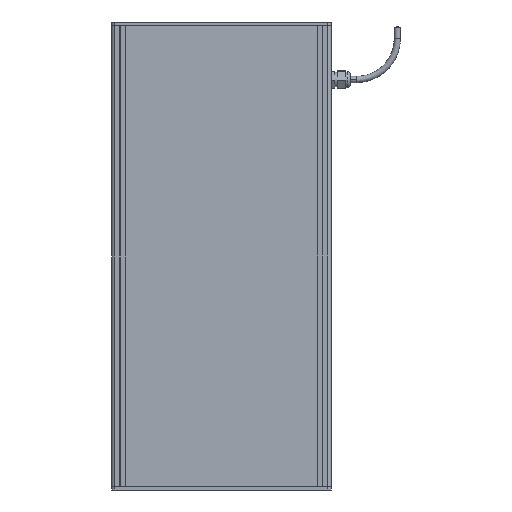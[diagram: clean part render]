
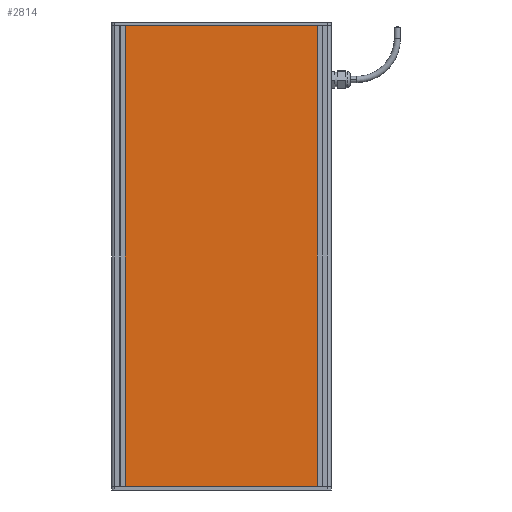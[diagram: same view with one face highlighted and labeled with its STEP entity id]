
A CAD part, front view. The second image highlights one B-rep face of the part: STEP entity #2814.
In plain terms, the highlighted planar face has unit normal (0, -1, 0) as drawn and (0, 0, 1) by its records, which use the part's own axes.
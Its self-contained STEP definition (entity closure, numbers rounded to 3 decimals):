
#7 = LINE ( 'NONE', #2467, #2908 ) ;
#297 = ORIENTED_EDGE ( 'NONE', *, *, #13883, .T. ) ;
#1171 = VERTEX_POINT ( 'NONE', #8388 ) ;
#1609 = EDGE_CURVE ( 'NONE', #14231, #12110, #11362, .T. ) ;
#1925 = CARTESIAN_POINT ( 'NONE',  ( -9., -600., 0. ) ) ;
#2303 = CARTESIAN_POINT ( 'NONE',  ( -259., -600., 0. ) ) ;
#2467 = CARTESIAN_POINT ( 'NONE',  ( -9., 0., 0. ) ) ;
#2676 = EDGE_CURVE ( 'NONE', #15360, #14231, #5745, .T. ) ;
#2746 = ORIENTED_EDGE ( 'NONE', *, *, #5916, .T. ) ;
#2814 = ADVANCED_FACE ( 'NONE', ( #8809 ), #12744, .F. ) ;
#2908 = VECTOR ( 'NONE', #6255, 1000. ) ;
#2928 = AXIS2_PLACEMENT_3D ( 'NONE', #13572, #12593, #4098 ) ;
#3023 = LINE ( 'NONE', #7833, #7361 ) ;
#3174 = VECTOR ( 'NONE', #4133, 1000. ) ;
#3215 = CARTESIAN_POINT ( 'NONE',  ( -9., -600., 0. ) ) ;
#3540 = CARTESIAN_POINT ( 'NONE',  ( -259., 0., 0. ) ) ;
#3974 = DIRECTION ( 'NONE',  ( -1., 0., 0. ) ) ;
#4098 = DIRECTION ( 'NONE',  ( -1., 0., 0. ) ) ;
#4133 = DIRECTION ( 'NONE',  ( 1., 0., 0. ) ) ;
#5745 = LINE ( 'NONE', #3540, #13945 ) ;
#5916 = EDGE_CURVE ( 'NONE', #1171, #15360, #3023, .T. ) ;
#6158 = ORIENTED_EDGE ( 'NONE', *, *, #1609, .T. ) ;
#6255 = DIRECTION ( 'NONE',  ( 0., 1., 0. ) ) ;
#6292 = ORIENTED_EDGE ( 'NONE', *, *, #2676, .T. ) ;
#6938 = DIRECTION ( 'NONE',  ( 0., -1., 0. ) ) ;
#7361 = VECTOR ( 'NONE', #3974, 1000. ) ;
#7833 = CARTESIAN_POINT ( 'NONE',  ( -9., 0., 0. ) ) ;
#8388 = CARTESIAN_POINT ( 'NONE',  ( -9., 0., 0. ) ) ;
#8809 = FACE_OUTER_BOUND ( 'NONE', #15143, .T. ) ;
#11362 = LINE ( 'NONE', #1925, #3174 ) ;
#12110 = VERTEX_POINT ( 'NONE', #3215 ) ;
#12593 = DIRECTION ( 'NONE',  ( 0., 0., -1. ) ) ;
#12744 = PLANE ( 'NONE',  #2928 ) ;
#13321 = CARTESIAN_POINT ( 'NONE',  ( -259., 0., 0. ) ) ;
#13572 = CARTESIAN_POINT ( 'NONE',  ( 0., 0., 0. ) ) ;
#13883 = EDGE_CURVE ( 'NONE', #12110, #1171, #7, .T. ) ;
#13945 = VECTOR ( 'NONE', #6938, 1000. ) ;
#14231 = VERTEX_POINT ( 'NONE', #2303 ) ;
#15143 = EDGE_LOOP ( 'NONE', ( #297, #2746, #6292, #6158 ) ) ;
#15360 = VERTEX_POINT ( 'NONE', #13321 ) ;
